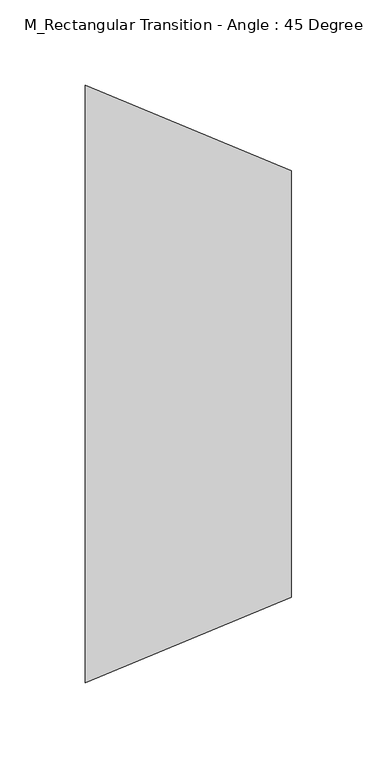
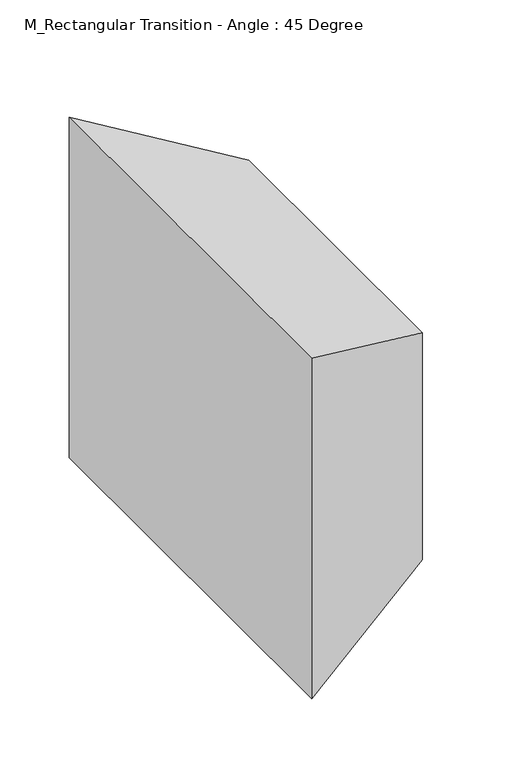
"""IFC4 building model written with IfcOpenShell, lengths in millimetres: duct fitting geometry, M_Rectangular Transition - Angle : 45 Degree."""

from ifc_helpers import new_model, si_unit, origin, place, context, project, spatial, faceted_brep, source, transform, mapped, element, save


def m_rectangular_transition_angle_45_degree_a6690b9c(model_context):
    return source(origin(), model_context, "Body", "Brep", [
        faceted_brep([(120.7106781, -125.0, 100.0), (120.7106781, -125.0, -100.0), (120.7106781, 125.0, -100.0), (120.7106781, 125.0, 100.0), (0.0, -175.0, 150.0), (0.0, 175.0, 150.0), (0.0, 175.0, -150.0), (0.0, -175.0, -150.0)], [[[0, 1, 2, 3]], [[4, 5, 6, 7]], [[4, 7, 1, 0]], [[7, 6, 2, 1]], [[6, 5, 3, 2]], [[5, 4, 0, 3]]]),
        faceted_brep([(120.7106781, -125.0, 100.0), (120.7106781, -125.0, -100.0), (120.7106781, 125.0, -100.0), (120.7106781, 125.0, 100.0), (0.0, -175.0, 150.0), (0.0, 175.0, 150.0), (0.0, 175.0, -150.0), (0.0, -175.0, -150.0)], [[[0, 1, 2, 3]], [[4, 5, 6, 7]], [[4, 7, 1, 0]], [[7, 6, 2, 1]], [[6, 5, 3, 2]], [[5, 4, 0, 3]]]),
        faceted_brep([(120.7106781, -125.0, 100.0), (120.7106781, -125.0, -100.0), (120.7106781, 125.0, -100.0), (120.7106781, 125.0, 100.0), (0.0, -175.0, 150.0), (0.0, 175.0, 150.0), (0.0, 175.0, -150.0), (0.0, -175.0, -150.0)], [[[0, 1, 2, 3]], [[4, 5, 6, 7]], [[4, 7, 1, 0]], [[7, 6, 2, 1]], [[6, 5, 3, 2]], [[5, 4, 0, 3]]]),
    ])


if __name__ == "__main__":
    model = new_model("IFC4")
    model_context = context("Model", 3, world=origin())
    ifc_project = project(units=[si_unit("LENGTHUNIT", "METRE", prefix="MILLI")], contexts=[model_context])
    site = spatial("IfcSite", under=ifc_project)
    building = spatial("IfcBuilding", under=site)
    placement = place(None, origin())
    m_rectangular_transition_angle_45_degree_shape = m_rectangular_transition_angle_45_degree_a6690b9c(model_context)
    element("IfcDuctFitting", 1, ObjectType="M_Rectangular Transition - Angle : 45 Degree", at=placement, inside=building, context=model_context, shape_type="MappedRepresentation", body=[
        mapped(m_rectangular_transition_angle_45_degree_shape, transform((0.0, 0.0, 0.0), x_axis=(1.0, 0.0, 0.0), y_axis=(0.0, 1.0, 0.0), z_axis=(0.0, 0.0, 1.0))),
    ])
    save(model, "model.ifc")
